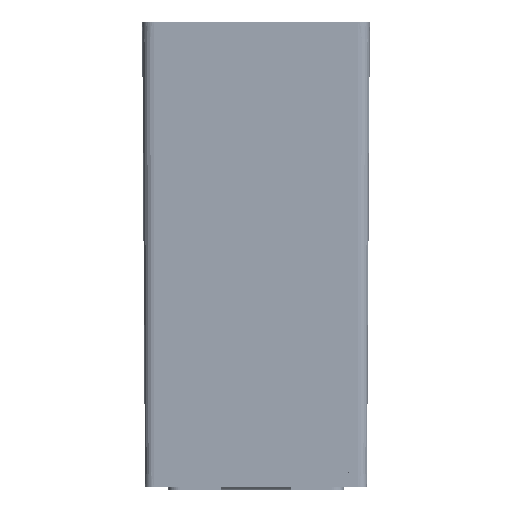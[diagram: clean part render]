
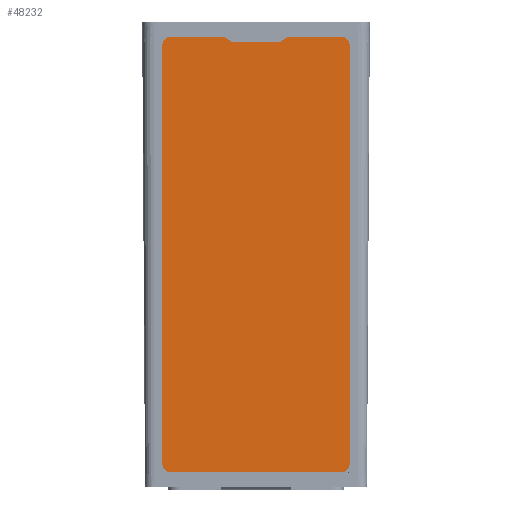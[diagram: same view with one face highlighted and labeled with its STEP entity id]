
A CAD part, left-side view. The second image highlights one B-rep face of the part: STEP entity #48232.
In plain terms, the highlighted planar face has unit normal (-1, 0, 0) as drawn and (0, 0, -1) by its records, which use the part's own axes.
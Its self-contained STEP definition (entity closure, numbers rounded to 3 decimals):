
#5966=PLANE('',#51983);
#6790=FACE_OUTER_BOUND('',#9889,.T.);
#9889=EDGE_LOOP('',(#33935,#33936,#33937,#33938,#33939,#33940,#33941,#33942,
#33943,#33944,#33945,#33946,#33947,#33948,#33949,#33950));
#13238=LINE('',#72104,#15379);
#13241=LINE('',#72110,#15382);
#13242=LINE('',#72114,#15383);
#13243=LINE('',#72118,#15384);
#13244=LINE('',#72122,#15385);
#13245=LINE('',#72126,#15386);
#13246=LINE('',#72130,#15387);
#13247=LINE('',#72134,#15388);
#15379=VECTOR('',#58751,10.);
#15382=VECTOR('',#58756,10.);
#15383=VECTOR('',#58759,10.);
#15384=VECTOR('',#58762,10.);
#15385=VECTOR('',#58765,10.);
#15386=VECTOR('',#58768,10.);
#15387=VECTOR('',#58771,10.);
#15388=VECTOR('',#58774,10.);
#17193=CIRCLE('',#51980,1.);
#17195=CIRCLE('',#51984,1.);
#17196=CIRCLE('',#51985,1.);
#17197=CIRCLE('',#51986,1.);
#17198=CIRCLE('',#51987,1.5);
#17199=CIRCLE('',#51988,1.5);
#17200=CIRCLE('',#51989,1.5);
#17201=CIRCLE('',#51990,1.5);
#20288=VERTEX_POINT('',#72094);
#20289=VERTEX_POINT('',#72095);
#20292=VERTEX_POINT('',#72103);
#20294=VERTEX_POINT('',#72109);
#20295=VERTEX_POINT('',#72111);
#20296=VERTEX_POINT('',#72113);
#20297=VERTEX_POINT('',#72115);
#20298=VERTEX_POINT('',#72117);
#20299=VERTEX_POINT('',#72119);
#20300=VERTEX_POINT('',#72121);
#20301=VERTEX_POINT('',#72123);
#20302=VERTEX_POINT('',#72125);
#20303=VERTEX_POINT('',#72127);
#20304=VERTEX_POINT('',#72129);
#20305=VERTEX_POINT('',#72131);
#20306=VERTEX_POINT('',#72133);
#25301=EDGE_CURVE('',#20288,#20289,#17193,.T.);
#25305=EDGE_CURVE('',#20289,#20292,#13238,.T.);
#25308=EDGE_CURVE('',#20288,#20294,#13241,.T.);
#25309=EDGE_CURVE('',#20295,#20294,#17195,.T.);
#25310=EDGE_CURVE('',#20295,#20296,#13242,.T.);
#25311=EDGE_CURVE('',#20297,#20296,#17196,.T.);
#25312=EDGE_CURVE('',#20297,#20298,#13243,.T.);
#25313=EDGE_CURVE('',#20299,#20298,#17197,.T.);
#25314=EDGE_CURVE('',#20300,#20299,#13244,.T.);
#25315=EDGE_CURVE('',#20301,#20300,#17198,.T.);
#25316=EDGE_CURVE('',#20302,#20301,#13245,.T.);
#25317=EDGE_CURVE('',#20303,#20302,#17199,.T.);
#25318=EDGE_CURVE('',#20304,#20303,#13246,.T.);
#25319=EDGE_CURVE('',#20305,#20304,#17200,.T.);
#25320=EDGE_CURVE('',#20306,#20305,#13247,.T.);
#25321=EDGE_CURVE('',#20292,#20306,#17201,.T.);
#33935=ORIENTED_EDGE('',*,*,#25301,.F.);
#33936=ORIENTED_EDGE('',*,*,#25308,.T.);
#33937=ORIENTED_EDGE('',*,*,#25309,.F.);
#33938=ORIENTED_EDGE('',*,*,#25310,.T.);
#33939=ORIENTED_EDGE('',*,*,#25311,.F.);
#33940=ORIENTED_EDGE('',*,*,#25312,.T.);
#33941=ORIENTED_EDGE('',*,*,#25313,.F.);
#33942=ORIENTED_EDGE('',*,*,#25314,.F.);
#33943=ORIENTED_EDGE('',*,*,#25315,.F.);
#33944=ORIENTED_EDGE('',*,*,#25316,.F.);
#33945=ORIENTED_EDGE('',*,*,#25317,.F.);
#33946=ORIENTED_EDGE('',*,*,#25318,.F.);
#33947=ORIENTED_EDGE('',*,*,#25319,.F.);
#33948=ORIENTED_EDGE('',*,*,#25320,.F.);
#33949=ORIENTED_EDGE('',*,*,#25321,.F.);
#33950=ORIENTED_EDGE('',*,*,#25305,.F.);
#48232=ADVANCED_FACE('',(#6790),#5966,.F.);
#51980=AXIS2_PLACEMENT_3D('',#72096,#58743,#58744);
#51983=AXIS2_PLACEMENT_3D('',#72108,#58754,#58755);
#51984=AXIS2_PLACEMENT_3D('',#72112,#58757,#58758);
#51985=AXIS2_PLACEMENT_3D('',#72116,#58760,#58761);
#51986=AXIS2_PLACEMENT_3D('',#72120,#58763,#58764);
#51987=AXIS2_PLACEMENT_3D('',#72124,#58766,#58767);
#51988=AXIS2_PLACEMENT_3D('',#72128,#58769,#58770);
#51989=AXIS2_PLACEMENT_3D('',#72132,#58772,#58773);
#51990=AXIS2_PLACEMENT_3D('',#72135,#58775,#58776);
#58743=DIRECTION('center_axis',(0.,0.,1.));
#58744=DIRECTION('ref_axis',(-0.29,-0.957,0.));
#58751=DIRECTION('',(1.,0.,0.));
#58754=DIRECTION('center_axis',(0.,0.,1.));
#58755=DIRECTION('ref_axis',(1.,0.,0.));
#58756=DIRECTION('',(-0.832,0.555,0.));
#58757=DIRECTION('center_axis',(0.,0.,-1.));
#58758=DIRECTION('ref_axis',(0.29,0.957,0.));
#58759=DIRECTION('',(-1.,0.,0.));
#58760=DIRECTION('center_axis',(0.,0.,-1.));
#58761=DIRECTION('ref_axis',(-0.29,0.957,0.));
#58762=DIRECTION('',(-0.832,-0.555,0.));
#58763=DIRECTION('center_axis',(0.,0.,1.));
#58764=DIRECTION('ref_axis',(0.29,-0.957,0.));
#58765=DIRECTION('',(1.,0.,0.));
#58766=DIRECTION('center_axis',(0.,0.,1.));
#58767=DIRECTION('ref_axis',(-1.,0.,0.));
#58768=DIRECTION('',(0.,-1.,0.));
#58769=DIRECTION('center_axis',(0.,0.,1.));
#58770=DIRECTION('ref_axis',(0.,1.,0.));
#58771=DIRECTION('',(-1.,0.,0.));
#58772=DIRECTION('center_axis',(0.,0.,1.));
#58773=DIRECTION('ref_axis',(1.,0.,0.));
#58774=DIRECTION('',(0.,1.,0.));
#58775=DIRECTION('center_axis',(0.,0.,1.));
#58776=DIRECTION('ref_axis',(0.,-1.,0.));
#72094=CARTESIAN_POINT('',(5.248,-37.082,0.));
#72095=CARTESIAN_POINT('',(5.803,-37.25,0.));
#72096=CARTESIAN_POINT('Origin',(5.803,-36.25,0.));
#72103=CARTESIAN_POINT('',(14.5,-37.25,0.));
#72104=CARTESIAN_POINT('',(-14.5,-37.25,0.));
#72108=CARTESIAN_POINT('Origin',(0.,0.,
0.));
#72109=CARTESIAN_POINT('',(4.252,-36.418,0.));
#72110=CARTESIAN_POINT('',(-5.75,-29.75,0.));
#72111=CARTESIAN_POINT('',(3.697,-36.25,0.));
#72112=CARTESIAN_POINT('Origin',(3.697,-37.25,0.));
#72113=CARTESIAN_POINT('',(-3.697,-36.25,0.));
#72114=CARTESIAN_POINT('',(-2.,-36.25,0.));
#72115=CARTESIAN_POINT('',(-4.252,-36.418,0.));
#72116=CARTESIAN_POINT('Origin',(-3.697,-37.25,0.));
#72117=CARTESIAN_POINT('',(-5.248,-37.082,0.));
#72118=CARTESIAN_POINT('',(5.,-30.25,0.));
#72119=CARTESIAN_POINT('',(-5.803,-37.25,0.));
#72120=CARTESIAN_POINT('Origin',(-5.803,-36.25,0.));
#72121=CARTESIAN_POINT('',(-14.5,-37.25,0.));
#72122=CARTESIAN_POINT('',(-14.5,-37.25,0.));
#72123=CARTESIAN_POINT('',(-16.,-35.75,0.));
#72124=CARTESIAN_POINT('Origin',(-14.5,-35.75,0.));
#72125=CARTESIAN_POINT('',(-16.,35.75,0.));
#72126=CARTESIAN_POINT('',(-16.,35.75,0.));
#72127=CARTESIAN_POINT('',(-14.5,37.25,0.));
#72128=CARTESIAN_POINT('Origin',(-14.5,35.75,0.));
#72129=CARTESIAN_POINT('',(14.5,37.25,0.));
#72130=CARTESIAN_POINT('',(14.5,37.25,0.));
#72131=CARTESIAN_POINT('',(16.,35.75,0.));
#72132=CARTESIAN_POINT('Origin',(14.5,35.75,0.));
#72133=CARTESIAN_POINT('',(16.,-35.75,0.));
#72134=CARTESIAN_POINT('',(16.,-35.75,0.));
#72135=CARTESIAN_POINT('Origin',(14.5,-35.75,0.));
